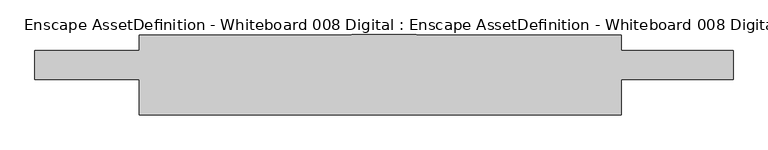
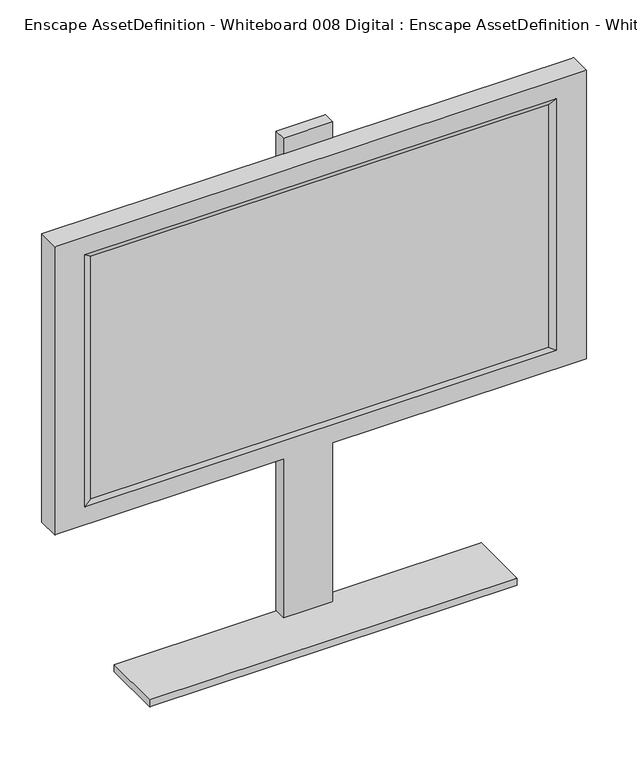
"""IFC4 building model written with IfcOpenShell, lengths in millimetres: geographic element geometry, Enscape AssetDefinition - Whiteboard 008 Digital : Enscape AssetDefinition - Whiteboard 008 Digital."""

from ifc_helpers import new_model, si_unit, origin, place, context, project, spatial, triangles, source, transform, mapped, element, save


def enscape_assetdefinition_whiteboard_008_digital_enscape_e1c9d93f(model_context):
    return source(origin(), model_context, "Body", "Tessellation", [
        triangles([(1085.7420124, -50.0000004, 2032.0739296), (-1085.7420124, -50.0000004, 787.659989), (-1085.7420124, -50.0000004, 2032.0739296), (1085.7420124, -50.0000004, 787.659989), (1085.7420124, -139.686005, 787.6589716), (1085.7420124, -139.686005, 2032.0739296), (962.025, -139.686005, 867.2139994), (-1085.7420124, -139.686005, 787.6589716), (-1085.7420124, -139.686005, 2032.0739296), (-934.6420057, -133.3519984, 1932.8049889), (962.025, -139.686005, 1952.5200645), (-962.025, -139.686005, 867.2139994), (-934.6420057, -133.3519984, 886.9280577), (-962.025, -139.686005, 1952.5200645), (934.6420057, -133.3519984, 886.9280577), (934.6420057, -133.3519984, 1932.8049889), (100.0000008, 0.0, 0.0), (-100.0000008, 0.0, 0.0), (100.0000008, -50.0000004, 0.0), (100.0000008, 0.0, 2099.9998707), (-100.0000008, -50.0000004, 0.0), (100.0000008, -50.0000004, 2099.9998707), (-100.0000008, -50.0000004, 2099.9998707), (-100.0000008, 0.0, 2099.9998707), (-761.6329439, -250.0000019, 0.0), (-761.6329439, -250.0000019, 29.9999993), (738.3669949, -250.0000019, 0.0), (738.3669949, -250.0000019, 29.9999993), (-761.6329439, 0.0, 0.0), (738.3669949, 0.0, 0.0), (738.3669949, 0.0, 29.9999993), (-761.6329439, 0.0, 29.9999993)], [[29, 26, 32], [26, 31, 32], [26, 28, 31], [27, 31, 28], [30, 29, 32], [30, 32, 31], [27, 30, 31], [29, 25, 26], [25, 27, 28], [25, 28, 26], [25, 29, 30], [25, 30, 27], [24, 21, 23], [21, 22, 23], [21, 19, 22], [17, 22, 19], [20, 24, 23], [20, 23, 22], [17, 20, 22], [24, 18, 21], [18, 17, 19], [18, 19, 21], [18, 24, 20], [18, 20, 17], [13, 15, 16], [13, 16, 10], [13, 10, 14], [14, 12, 13], [15, 13, 12], [16, 15, 7], [12, 7, 15], [10, 16, 11], [11, 14, 10], [7, 11, 16], [14, 11, 6], [12, 14, 9], [6, 9, 14], [3, 8, 9], [9, 8, 12], [7, 12, 8], [11, 7, 5], [5, 6, 11], [8, 5, 7], [4, 6, 5], [1, 3, 9], [1, 9, 6], [4, 1, 6], [3, 2, 8], [2, 4, 5], [2, 5, 8], [2, 3, 1], [2, 1, 4]]),
    ])


if __name__ == "__main__":
    model = new_model("IFC4")
    model_context = context("Model", 3, world=origin())
    ifc_project = project(units=[si_unit("LENGTHUNIT", "METRE", prefix="MILLI")], contexts=[model_context])
    site = spatial("IfcSite", under=ifc_project)
    building = spatial("IfcBuilding", under=site)
    placement = place(None, origin())
    enscape_assetdefinition_whiteboard_008_digital_enscape_shape = enscape_assetdefinition_whiteboard_008_digital_enscape_e1c9d93f(model_context)
    element("IfcGeographicElement", 1, ObjectType="Enscape AssetDefinition - Whiteboard 008 Digital : Enscape AssetDefinition - Whiteboard 008 Digital", at=placement, inside=building, context=model_context, shape_type="MappedRepresentation", body=[
        mapped(enscape_assetdefinition_whiteboard_008_digital_enscape_shape, transform((0.0, 0.0, 0.0), x_axis=(1.0, 0.0, 0.0), y_axis=(0.0, 1.0, 0.0), z_axis=(0.0, 0.0, 1.0))),
    ])
    save(model, "model.ifc")
